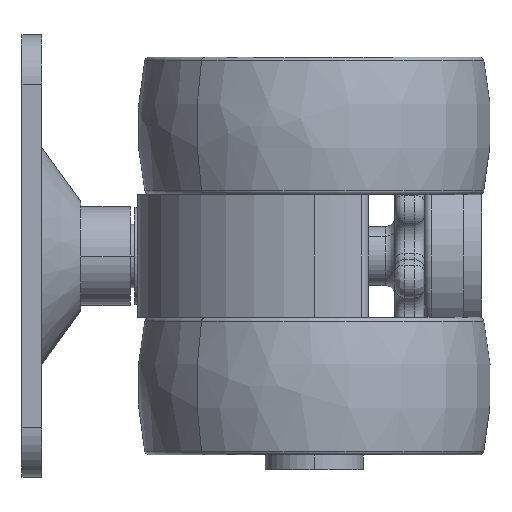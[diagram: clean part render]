
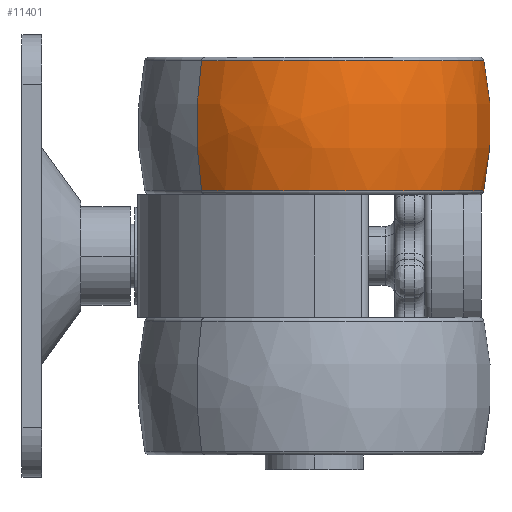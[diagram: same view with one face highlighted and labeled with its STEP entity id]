
A CAD part, left-side view. The second image highlights one B-rep face of the part: STEP entity #11401.
In plain terms, the highlighted free-form (B-spline) face has degree [3, 3] with [4, 4] control points.
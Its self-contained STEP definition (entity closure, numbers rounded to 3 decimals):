
#81 = VERTEX_POINT ( 'NONE', #8214 ) ;
#120 = VERTEX_POINT ( 'NONE', #10401 ) ;
#431 = CIRCLE ( 'NONE', #12907, 60. ) ;
#622 = AXIS2_PLACEMENT_3D ( 'NONE', #6482, #7505, #14609 ) ;
#643 = FACE_OUTER_BOUND ( 'NONE', #8595, .T. ) ;
#1328 = CARTESIAN_POINT ( 'NONE',  ( 18.074, 26.958, 26.5 ) ) ;
#1642 = DIRECTION ( 'NONE',  ( -0.665, -0.747, 0. ) ) ;
#1668 = CARTESIAN_POINT ( 'NONE',  ( 8.737, 35.269, 22.02 ) ) ;
#1876 = EDGE_CURVE ( 'NONE', #3954, #120, #8525, .T. ) ;
#2199 = CARTESIAN_POINT ( 'NONE',  ( 15.876, -63.532, 39.72 ) ) ;
#2552 = CARTESIAN_POINT ( 'NONE',  ( 61.788, -11.956, 39.72 ) ) ;
#2817 = CARTESIAN_POINT ( 'NONE',  ( 53.926, -4.958, 26.5 ) ) ;
#2895 = DIRECTION ( 'NONE',  ( 0.747, -0.665, 0. ) ) ;
#2923 = CARTESIAN_POINT ( 'NONE',  ( 10.212, 33.956, 39.72 ) ) ;
#3287 = CARTESIAN_POINT ( 'NONE',  ( 15.876, -63.532, 13.28 ) ) ;
#3954 = VERTEX_POINT ( 'NONE', #9742 ) ;
#4091 = CARTESIAN_POINT ( 'NONE',  ( 61.788, -11.956, 39.72 ) ) ;
#4175 = CARTESIAN_POINT ( 'NONE',  ( 14.726, -67.794, 30.98 ) ) ;
#4396 = VERTEX_POINT ( 'NONE', #2552 ) ;
#5193 = CARTESIAN_POINT ( 'NONE',  ( 14.726, -67.794, 22.02 ) ) ;
#5266 = CARTESIAN_POINT ( 'NONE',  ( 63.263, -13.269, 30.98 ) ) ;
#5421 = CARTESIAN_POINT ( 'NONE',  ( 10.212, 33.956, 13.28 ) ) ;
#5716 = CARTESIAN_POINT ( 'NONE',  ( 8.737, 35.269, 30.98 ) ) ;
#5844 = ORIENTED_EDGE ( 'NONE', *, *, #1876, .F. ) ;
#5988 = EDGE_CURVE ( 'NONE', #4396, #3954, #431, .T. ) ;
#6482 = CARTESIAN_POINT ( 'NONE',  ( 36., 11., 39.72 ) ) ;
#6648 = ORIENTED_EDGE ( 'NONE', *, *, #12418, .T. ) ;
#7098 = CARTESIAN_POINT ( 'NONE',  ( 36., 11., 13.28 ) ) ;
#7187 = CIRCLE ( 'NONE', #7660, 60. ) ;
#7505 = DIRECTION ( 'NONE',  ( 0., 0., -1. ) ) ;
#7600 = CARTESIAN_POINT ( 'NONE',  ( -35.7, -17.62, 13.28 ) ) ;
#7660 = AXIS2_PLACEMENT_3D ( 'NONE', #2817, #1642, #2895 ) ;
#8214 = CARTESIAN_POINT ( 'NONE',  ( 10.212, 33.956, 39.72 ) ) ;
#8525 = CIRCLE ( 'NONE', #13517, 34.525 ) ;
#8595 = EDGE_LOOP ( 'NONE', ( #9299, #6648, #15017, #5844 ) ) ;
#9299 = ORIENTED_EDGE ( 'NONE', *, *, #5988, .F. ) ;
#9742 = CARTESIAN_POINT ( 'NONE',  ( 61.788, -11.956, 13.28 ) ) ;
#9761 =( BOUNDED_SURFACE ( )  B_SPLINE_SURFACE ( 3, 3, ( 
 ( #13694, #3287, #7600, #5421 ),
 ( #14944, #5193, #13533, #1668 ),
 ( #5266, #4175, #10017, #5716 ),
 ( #4091, #2199, #13613, #2923 ) ),
 .UNSPECIFIED., .F., .F., .F. ) 
 B_SPLINE_SURFACE_WITH_KNOTS ( ( 4, 4 ),
 ( 4, 4 ),
 ( 0., 1. ),
 ( 0., 1. ),
 .UNSPECIFIED. ) 
 GEOMETRIC_REPRESENTATION_ITEM ( )  RATIONAL_B_SPLINE_SURFACE ( (
 ( 1., 0.333, 0.333, 1.),
 ( 0.984, 0.328, 0.328, 0.984),
 ( 0.984, 0.328, 0.328, 0.984),
 ( 1., 0.333, 0.333, 1.) ) ) 
 REPRESENTATION_ITEM ( '' )  SURFACE ( )  );
#10017 = CARTESIAN_POINT ( 'NONE',  ( -39.8, -19.257, 30.98 ) ) ;
#10401 = CARTESIAN_POINT ( 'NONE',  ( 10.212, 33.956, 13.28 ) ) ;
#11401 = ADVANCED_FACE ( 'NONE', ( #643 ), #9761, .T. ) ;
#12034 = DIRECTION ( 'NONE',  ( -0.747, 0.665, 0. ) ) ;
#12418 = EDGE_CURVE ( 'NONE', #4396, #81, #12856, .T. ) ;
#12795 = DIRECTION ( 'NONE',  ( 0., 0., -1. ) ) ;
#12856 = CIRCLE ( 'NONE', #622, 34.525 ) ;
#12907 = AXIS2_PLACEMENT_3D ( 'NONE', #1328, #15385, #12034 ) ;
#13517 = AXIS2_PLACEMENT_3D ( 'NONE', #7098, #12795, #15051 ) ;
#13533 = CARTESIAN_POINT ( 'NONE',  ( -39.8, -19.257, 22.02 ) ) ;
#13613 = CARTESIAN_POINT ( 'NONE',  ( -35.7, -17.62, 39.72 ) ) ;
#13694 = CARTESIAN_POINT ( 'NONE',  ( 61.788, -11.956, 13.28 ) ) ;
#14587 = EDGE_CURVE ( 'NONE', #81, #120, #7187, .T. ) ;
#14609 = DIRECTION ( 'NONE',  ( -0.747, 0.665, 0. ) ) ;
#14944 = CARTESIAN_POINT ( 'NONE',  ( 63.263, -13.269, 22.02 ) ) ;
#15017 = ORIENTED_EDGE ( 'NONE', *, *, #14587, .T. ) ;
#15051 = DIRECTION ( 'NONE',  ( -0.747, 0.665, 0. ) ) ;
#15385 = DIRECTION ( 'NONE',  ( 0.665, 0.747, 0. ) ) ;
